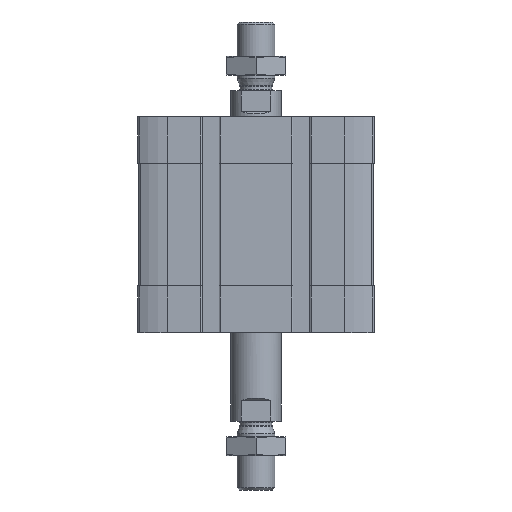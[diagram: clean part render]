
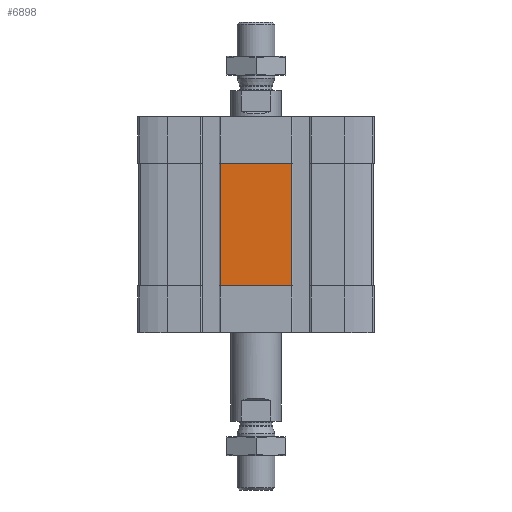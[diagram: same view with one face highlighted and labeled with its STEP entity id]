
A CAD part, front view. The second image highlights one B-rep face of the part: STEP entity #6898.
In plain terms, the highlighted planar face has unit normal (0, -1, 0).
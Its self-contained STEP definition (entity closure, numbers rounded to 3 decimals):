
#523 = CARTESIAN_POINT ( 'NONE',  ( 11.4, -37.5, -15. ) ) ;
#1072 = CARTESIAN_POINT ( 'NONE',  ( -11.4, -37.5, -15. ) ) ;
#1102 = EDGE_CURVE ( 'NONE', #12919, #12675, #13453, .T. ) ;
#1486 = FACE_OUTER_BOUND ( 'NONE', #9023, .T. ) ;
#2267 = CARTESIAN_POINT ( 'NONE',  ( -11.4, -37.5, -15. ) ) ;
#3352 = AXIS2_PLACEMENT_3D ( 'NONE', #14912, #5512, #12294 ) ;
#3791 = VECTOR ( 'NONE', #4393, 1000. ) ;
#3991 = VERTEX_POINT ( 'NONE', #1072 ) ;
#4393 = DIRECTION ( 'NONE',  ( 0., 0., 1. ) ) ;
#4709 = EDGE_CURVE ( 'NONE', #14835, #12919, #7015, .T. ) ;
#5512 = DIRECTION ( 'NONE',  ( 0., -1., 0. ) ) ;
#6116 = LINE ( 'NONE', #2267, #9093 ) ;
#6139 = CARTESIAN_POINT ( 'NONE',  ( -11.4, -37.5, -54. ) ) ;
#6203 = DIRECTION ( 'NONE',  ( 1., 0., 0. ) ) ;
#6721 = ORIENTED_EDGE ( 'NONE', *, *, #12101, .F. ) ;
#6808 = PLANE ( 'NONE',  #3352 ) ;
#6827 = CARTESIAN_POINT ( 'NONE',  ( 11.4, -37.5, -54. ) ) ;
#6898 = ADVANCED_FACE ( 'NONE', ( #1486 ), #6808, .T. ) ;
#7015 = LINE ( 'NONE', #13818, #16810 ) ;
#8096 = VECTOR ( 'NONE', #11451, 1000. ) ;
#9023 = EDGE_LOOP ( 'NONE', ( #9575, #6721, #11445, #10590 ) ) ;
#9093 = VECTOR ( 'NONE', #6203, 1000. ) ;
#9575 = ORIENTED_EDGE ( 'NONE', *, *, #11272, .F. ) ;
#10590 = ORIENTED_EDGE ( 'NONE', *, *, #1102, .T. ) ;
#11272 = EDGE_CURVE ( 'NONE', #3991, #12675, #6116, .T. ) ;
#11445 = ORIENTED_EDGE ( 'NONE', *, *, #4709, .T. ) ;
#11451 = DIRECTION ( 'NONE',  ( 0., 0., 1. ) ) ;
#12007 = CARTESIAN_POINT ( 'NONE',  ( 11.4, -37.5, -54. ) ) ;
#12101 = EDGE_CURVE ( 'NONE', #14835, #3991, #15386, .T. ) ;
#12294 = DIRECTION ( 'NONE',  ( 0., 0., -1. ) ) ;
#12675 = VERTEX_POINT ( 'NONE', #523 ) ;
#12919 = VERTEX_POINT ( 'NONE', #12007 ) ;
#13453 = LINE ( 'NONE', #6827, #3791 ) ;
#13818 = CARTESIAN_POINT ( 'NONE',  ( -11.4, -37.5, -54. ) ) ;
#14835 = VERTEX_POINT ( 'NONE', #14958 ) ;
#14912 = CARTESIAN_POINT ( 'NONE',  ( -11.4, -37.5, -54. ) ) ;
#14958 = CARTESIAN_POINT ( 'NONE',  ( -11.4, -37.5, -54. ) ) ;
#15386 = LINE ( 'NONE', #6139, #8096 ) ;
#16349 = DIRECTION ( 'NONE',  ( 1., 0., 0. ) ) ;
#16810 = VECTOR ( 'NONE', #16349, 1000. ) ;
